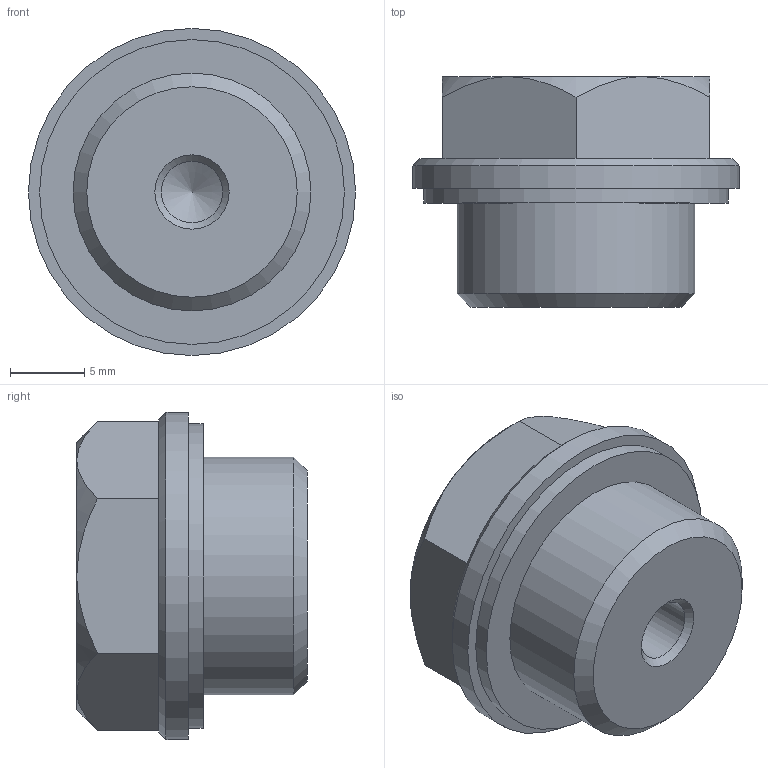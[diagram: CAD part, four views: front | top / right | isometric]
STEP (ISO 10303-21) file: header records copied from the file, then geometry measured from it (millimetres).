
FILE_DESCRIPTION( ( 'STEP AP203' ), '1' );
FILE_NAME( 'C:/Temp/Ganter_Step_05_03_2020/data/3_5/gn742/gn742_1/Threaded plug GN 742-22-M16x1,5-ASS-1.stp', '2020-03-12T13:38:57', ( 'License CC BY-ND 4.0' ), ( 'CADENAS' ), ' ', 'PARTsolutions', ' ' );
FILE_SCHEMA( ( 'CONFIG_CONTROL_DESIGN' ) );
Length unit declared in the file: millimetre
Products named in the file (1): _Threaded plug GN 742-22-M16x1,5-ASS-1
Bounding box: 22 x 15.5 x 22 mm (x, y, z)
Volume: 3832.5 mm3; surface area: 1746.5 mm2
Topology: 1 solids, 1 shells, 52 faces, 125 edges, 80 vertices
Faces by surface type: plane 38, cone 10, cylinder 4
Full cylindrical faces by diameter (mm): 4.134 x1, 16 x1, 20.5 x1, 22 x1
Entity records: 1545 total; most frequent: CARTESIAN_POINT 333, ORIENTED_EDGE 232, DIRECTION 227, EDGE_CURVE 116, LINE 87, VECTOR 87, VERTEX_POINT 80, AXIS2_PLACEMENT_3D 70
